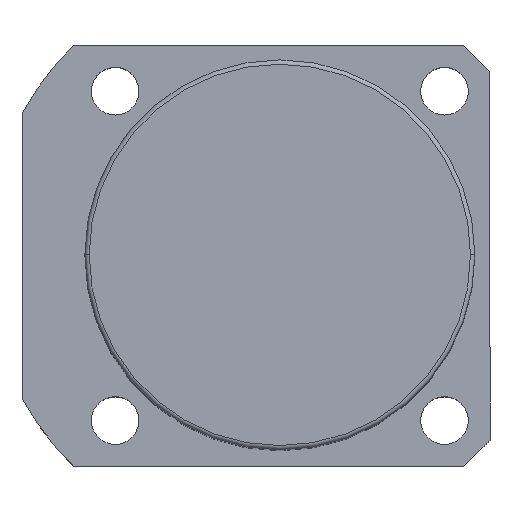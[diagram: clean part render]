
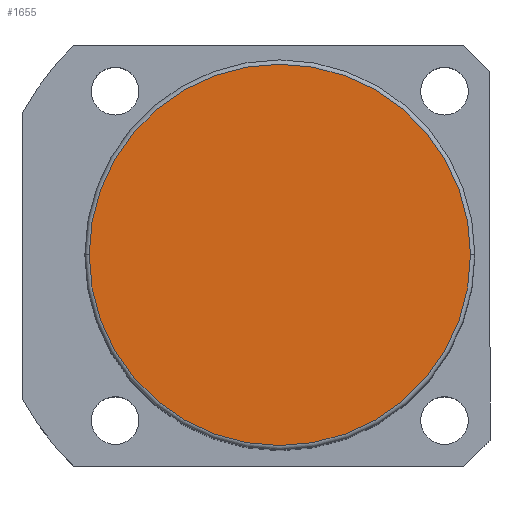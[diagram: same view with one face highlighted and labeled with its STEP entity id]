
A CAD part, top view. The second image highlights one B-rep face of the part: STEP entity #1655.
In plain terms, the highlighted planar face has unit normal (0, 0, 1).
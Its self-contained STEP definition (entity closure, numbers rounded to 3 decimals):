
#59 = CIRCLE ( 'NONE', #120, 44. ) ;
#91 = VERTEX_POINT ( 'NONE', #2048 ) ;
#120 = AXIS2_PLACEMENT_3D ( 'NONE', #1619, #228, #1441 ) ;
#228 = DIRECTION ( 'NONE',  ( 0., 0., 1. ) ) ;
#443 = CARTESIAN_POINT ( 'NONE',  ( 44., 0., 146.5 ) ) ;
#451 = CARTESIAN_POINT ( 'NONE',  ( 0., 0., 146.5 ) ) ;
#705 = ORIENTED_EDGE ( 'NONE', *, *, #824, .T. ) ;
#824 = EDGE_CURVE ( 'NONE', #91, #1408, #59, .T. ) ;
#921 = AXIS2_PLACEMENT_3D ( 'NONE', #1012, #2179, #2195 ) ;
#993 = CIRCLE ( 'NONE', #1699, 44. ) ;
#1012 = CARTESIAN_POINT ( 'NONE',  ( 0., 0., 146.5 ) ) ;
#1191 = ORIENTED_EDGE ( 'NONE', *, *, #1574, .T. ) ;
#1335 = DIRECTION ( 'NONE',  ( 1., 0., 0. ) ) ;
#1340 = PLANE ( 'NONE',  #921 ) ;
#1408 = VERTEX_POINT ( 'NONE', #443 ) ;
#1441 = DIRECTION ( 'NONE',  ( 1., 0., 0. ) ) ;
#1574 = EDGE_CURVE ( 'NONE', #1408, #91, #993, .T. ) ;
#1619 = CARTESIAN_POINT ( 'NONE',  ( 0., 0., 146.5 ) ) ;
#1655 = ADVANCED_FACE ( 'NONE', ( #1847 ), #1340, .T. ) ;
#1699 = AXIS2_PLACEMENT_3D ( 'NONE', #451, #1986, #1335 ) ;
#1847 = FACE_OUTER_BOUND ( 'NONE', #2017, .T. ) ;
#1986 = DIRECTION ( 'NONE',  ( 0., 0., 1. ) ) ;
#2017 = EDGE_LOOP ( 'NONE', ( #1191, #705 ) ) ;
#2048 = CARTESIAN_POINT ( 'NONE',  ( -44., 0., 146.5 ) ) ;
#2179 = DIRECTION ( 'NONE',  ( 0., 0., 1. ) ) ;
#2195 = DIRECTION ( 'NONE',  ( 1., 0., 0. ) ) ;
